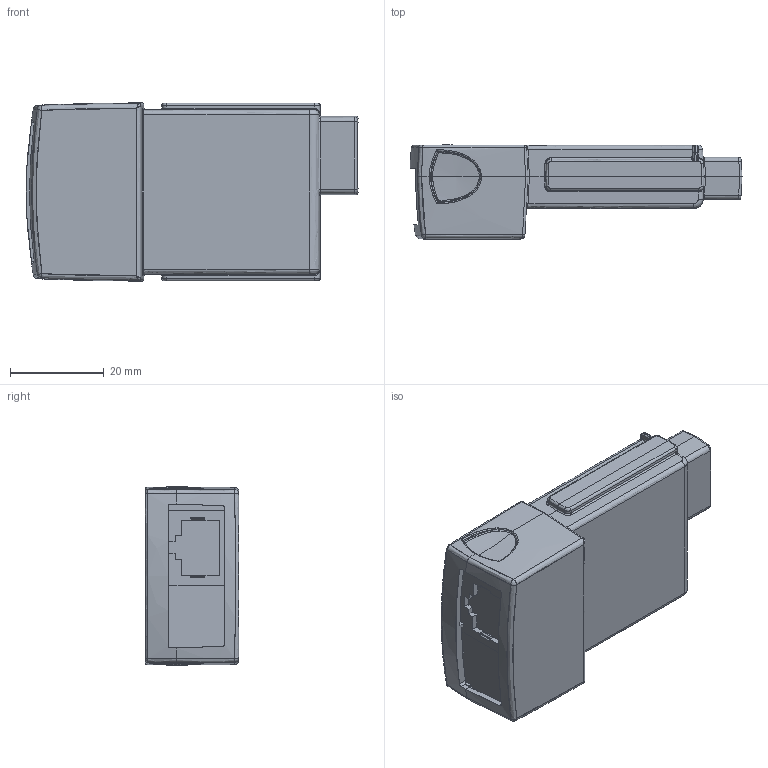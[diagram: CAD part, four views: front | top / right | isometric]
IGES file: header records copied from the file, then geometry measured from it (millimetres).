
Start section: SolidWorks IGES file using analytic representation for surfaces
Global section: file name: Z:\Products\Jazz\CAD files\MJ20-xx1.IGS; native system: SolidWorks 2020; preprocessor: SolidWorks 2020; author: LaorB; date: 220208.140436; units: millimetre
Bounding box: 70.92 x 20.05 x 38.08 mm (x, y, z)
Surface area: 9766.8 mm2 (no closed solid volume)
Topology: 0 solids, 0 shells, 829 faces, 6269 edges, 6253 vertices
Faces by surface type: bspline 626, revolution 203
